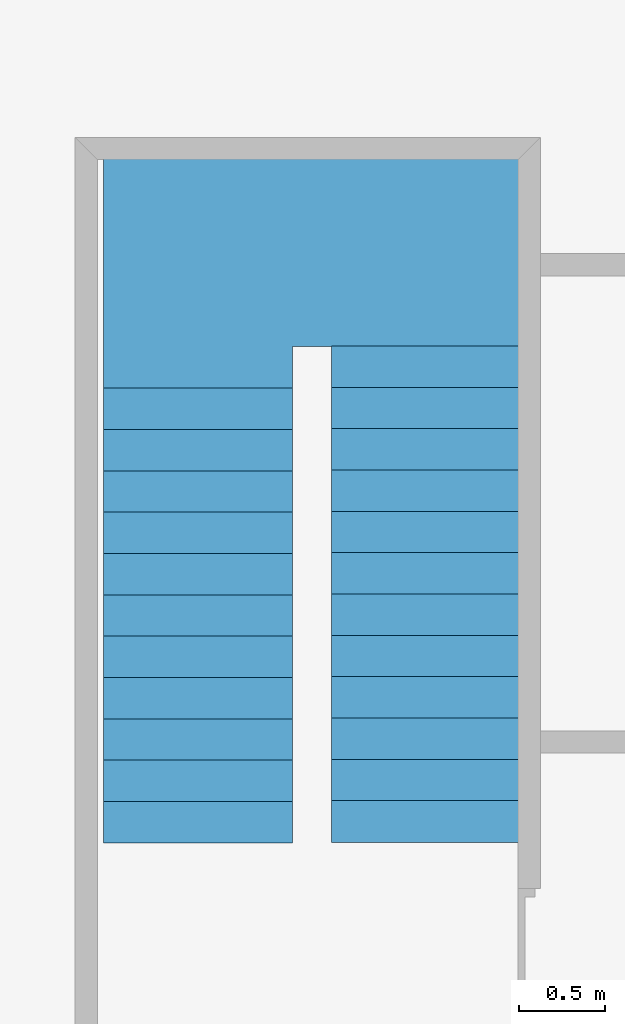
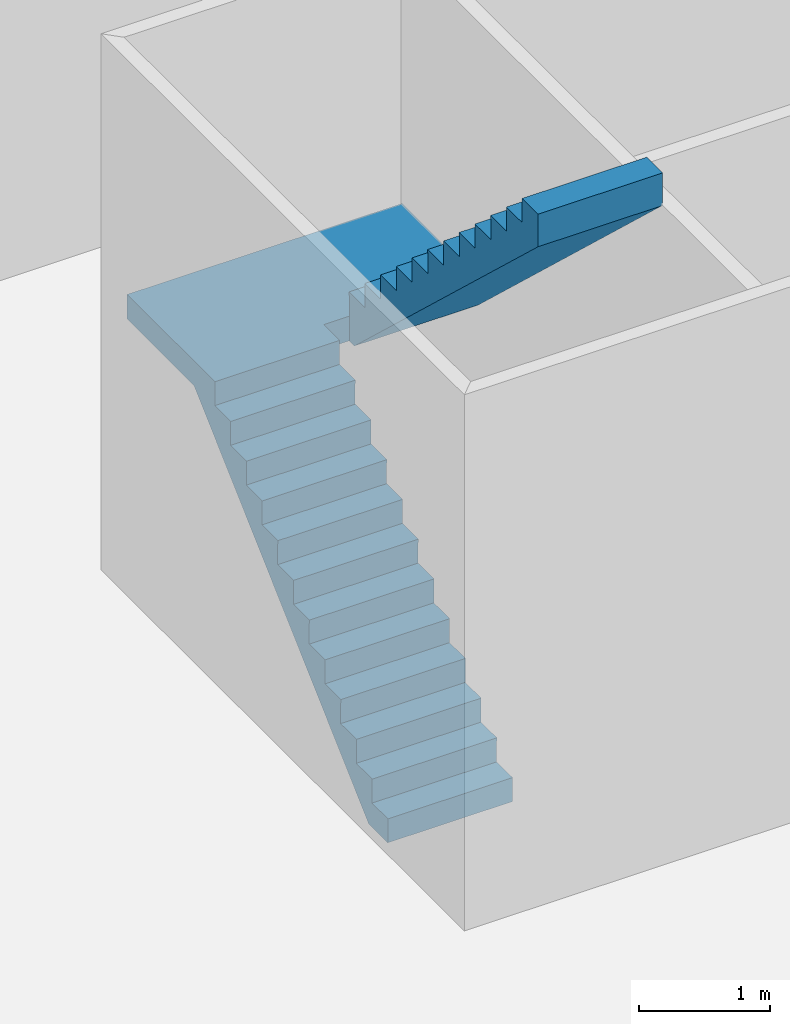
# One storey, part 37 of 40: 1 stair.
"""IFC2X3 building model written with IfcOpenShell, lengths in metres."""

from ifc_helpers import new_model, entity, si_unit, converted_unit, money_unit, direction, frame, origin_with_axes, place, context, subcontext, project, spatial, faceted_brep, material, element, save


model = new_model("IFC2X3")

# Units and contexts
model_context = context("Model", 3, precision=1e-05, world=origin_with_axes(), true_north=direction((0.0, 1.0)))
body_context = subcontext(model_context, "Body", "Model", "MODEL_VIEW")
ifc_project = project(units=[si_unit("LENGTHUNIT", "METRE"), si_unit("AREAUNIT", "SQUARE_METRE"), si_unit("VOLUMEUNIT", "CUBIC_METRE"), converted_unit("PLANEANGLEUNIT", "DEGREE", entity("IfcPlaneAngleMeasure", 0.0174532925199), si_unit("PLANEANGLEUNIT", "RADIAN"), dimensions=[0, 0, 0, 0, 0, 0, 0]), si_unit("SOLIDANGLEUNIT", "STERADIAN"), money_unit("EUR"), converted_unit("TIMEUNIT", "Year", entity("IfcTimeMeasure", 31556926.0), si_unit("TIMEUNIT", "SECOND"), dimensions=[0, 0, 0, 0, 0, 0, 0]), si_unit("MASSUNIT", "GRAM"), si_unit("THERMODYNAMICTEMPERATUREUNIT", "DEGREE_CELSIUS"), si_unit("LUMINOUSINTENSITYUNIT", "LUMEN")], contexts=[model_context])

# Site, building, storey
site_placement = place(None, origin_with_axes())
site = spatial("IfcSite", under=ifc_project, at=site_placement, Name="Undefined", CompositionType="ELEMENT")
building_placement = place(site_placement, origin_with_axes())
building = spatial("IfcBuilding", under=site, at=building_placement, Name="Undefined", CompositionType="ELEMENT")
storey_placement = place(building_placement, origin_with_axes())
storey = spatial("IfcBuildingStorey", under=building, at=storey_placement, Name="Rez de chauss\x8ee", CompositionType="ELEMENT", Elevation=0.0)

# Stair
ifc_material = material(Name="Concrete Block")
stair_placement = place(storey_placement, frame((47.25, 10.6413765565, 0.0), z_axis=(0.0, 0.0, 1.0), x_axis=(0.0, -1.0, 0.0)))
element("IfcStair", 1, at=stair_placement, inside=storey, material=ifc_material, Name="Stair_01", ObjectType="STAIR", ShapeType="NOTDEFINED", context=body_context, shape_type="Brep", body=[
    faceted_brep([(-0.292618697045, 0.0, 0.0), (-2.96264040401, 0.0, 2.47), (-2.96264040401, 1.1, 2.47), (-0.292618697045, 1.1, 0.0), (-0.02, 0.0, 0.0), (-0.02, 0.0, 0.195), (-0.260301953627, 0.0, 0.195), (-0.260301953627, 0.0, 0.42), (-0.500603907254, 0.0, 0.42), (-0.500603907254, 0.0, 0.645), (-0.740905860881, 0.0, 0.645), (-0.740905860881, 0.0, 0.87), (-0.981207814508, 0.0, 0.87), (-0.981207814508, 0.0, 1.095), (-1.22150976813, 0.0, 1.095), (-1.22150976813, 0.0, 1.32), (-1.46181172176, 0.0, 1.32), (-1.46181172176, 0.0, 1.545), (-1.70211367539, 0.0, 1.545), (-1.70211367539, 0.0, 1.77), (-1.94241562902, 0.0, 1.77), (-1.94241562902, 0.0, 1.995), (-2.18271758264, 0.0, 1.995), (-2.18271758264, 0.0, 2.22), (-2.42301953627, 0.0, 2.22), (-2.42301953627, 0.0, 2.445), (-2.6633214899, 0.0, 2.445), (-2.6633214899, 0.0, 2.67), (-2.90362344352, 0.0, 2.67), (-3.98362344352, 0.0, 2.67), (-3.98362344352, 0.0, 2.47), (-3.98362344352, 1.1, 2.47), (-3.98362344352, 1.1, 2.67), (-2.90362344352, 1.1, 2.67), (-2.6633214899, 1.1, 2.67), (-2.6633214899, 1.1, 2.445), (-2.42301953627, 1.1, 2.445), (-2.42301953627, 1.1, 2.22), (-2.18271758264, 1.1, 2.22), (-2.18271758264, 1.1, 1.995), (-1.94241562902, 1.1, 1.995), (-1.94241562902, 1.1, 1.77), (-1.70211367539, 1.1, 1.77), (-1.70211367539, 1.1, 1.545), (-1.46181172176, 1.1, 1.545), (-1.46181172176, 1.1, 1.32), (-1.22150976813, 1.1, 1.32), (-1.22150976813, 1.1, 1.095), (-0.981207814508, 1.1, 1.095), (-0.981207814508, 1.1, 0.87), (-0.740905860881, 1.1, 0.87), (-0.740905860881, 1.1, 0.645), (-0.500603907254, 1.1, 0.645), (-0.500603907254, 1.1, 0.42), (-0.260301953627, 1.1, 0.42), (-0.260301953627, 1.1, 0.195), (-0.02, 1.1, 0.195), (-0.02, 1.1, 0.0)], [[[0, 1, 2, 3]], [[0, 4, 5, 6, 7, 8, 9, 10, 11, 12, 13, 14, 15, 16, 17, 18, 19, 20, 21, 22, 23, 24, 25, 26, 27, 28, 29, 30, 1]], [[1, 30, 31, 2]], [[3, 2, 31, 32, 33, 34, 35, 36, 37, 38, 39, 40, 41, 42, 43, 44, 45, 46, 47, 48, 49, 50, 51, 52, 53, 54, 55, 56, 57]], [[4, 0, 3, 57]], [[5, 4, 57, 56]], [[6, 5, 56, 55]], [[7, 6, 55, 54]], [[8, 7, 54, 53]], [[9, 8, 53, 52]], [[10, 9, 52, 51]], [[11, 10, 51, 50]], [[12, 11, 50, 49]], [[13, 12, 49, 48]], [[14, 13, 48, 47]], [[15, 14, 47, 46]], [[16, 15, 46, 45]], [[17, 16, 45, 44]], [[18, 17, 44, 43]], [[19, 18, 43, 42]], [[20, 19, 42, 41]], [[21, 20, 41, 40]], [[22, 21, 40, 39]], [[23, 22, 39, 38]], [[24, 23, 38, 37]], [[25, 24, 37, 36]], [[26, 25, 36, 35]], [[27, 26, 35, 34]], [[28, 27, 34, 33]], [[29, 28, 33, 32]], [[30, 29, 32, 31]]]),
    faceted_brep([(-2.88362344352, 1.1, 2.67), (-2.88362344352, 1.1, 2.47), (-2.88362344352, 1.325, 2.47), (-2.88362344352, 1.325, 2.67), (-3.98362344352, 1.1, 2.67), (-3.98362344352, 1.1, 2.47), (-2.96264040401, 1.1, 2.47), (-2.96264040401, 1.325, 2.47), (-3.98362344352, 1.325, 2.47), (-3.98362344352, 1.325, 2.67)], [[[0, 1, 2, 3]], [[0, 4, 5, 6, 1]], [[1, 6, 7, 2]], [[3, 2, 7, 8, 9]], [[4, 0, 3, 9]], [[5, 4, 9, 8]], [[6, 5, 8, 7]]]),
    faceted_brep([(-2.88362344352, 1.325, 2.67), (-2.88362344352, 1.325, 2.47), (-2.88362344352, 2.425, 2.47), (-2.88362344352, 2.425, 2.67), (-3.98362344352, 1.325, 2.67), (-3.98362344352, 1.325, 2.47), (-3.98362344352, 2.425, 2.47), (-3.98362344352, 2.425, 2.67)], [[[0, 1, 2, 3]], [[0, 4, 5, 1]], [[1, 5, 6, 2]], [[3, 2, 6, 7]], [[4, 0, 3, 7]], [[5, 4, 7, 6]]]),
    faceted_brep([(-2.88362344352, 1.325, 2.47), (-2.88362344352, 2.425, 2.47), (-2.80460648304, 2.425, 2.47), (-2.80460648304, 1.325, 2.47), (-2.88362344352, 1.325, 2.67), (-2.88362344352, 2.425, 2.67), (-2.86362344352, 2.425, 2.67), (-2.86362344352, 2.425, 2.895), (-2.6233214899, 2.425, 2.895), (-2.6233214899, 2.425, 3.12), (-2.38301953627, 2.425, 3.12), (-2.38301953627, 2.425, 3.345), (-2.14271758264, 2.425, 3.345), (-2.14271758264, 2.425, 3.57), (-1.90241562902, 2.425, 3.57), (-1.90241562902, 2.425, 3.795), (-1.66211367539, 2.425, 3.795), (-1.66211367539, 2.425, 4.02), (-1.42181172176, 2.425, 4.02), (-1.42181172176, 2.425, 4.245), (-1.18150976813, 2.425, 4.245), (-1.18150976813, 2.425, 4.47), (-0.941207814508, 2.425, 4.47), (-0.941207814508, 2.425, 4.695), (-0.700905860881, 2.425, 4.695), (-0.700905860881, 2.425, 4.92), (-0.460603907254, 2.425, 4.92), (-0.460603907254, 2.425, 5.145), (-0.220301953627, 2.425, 5.145), (-0.220301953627, 2.425, 5.37), (0.0, 2.425, 5.37), (0.0, 2.425, 5.09601468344), (0.0, 1.325, 5.09601468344), (0.0, 1.325, 5.37), (-0.220301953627, 1.325, 5.37), (-0.220301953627, 1.325, 5.145), (-0.460603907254, 1.325, 5.145), (-0.460603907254, 1.325, 4.92), (-0.700905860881, 1.325, 4.92), (-0.700905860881, 1.325, 4.695), (-0.941207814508, 1.325, 4.695), (-0.941207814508, 1.325, 4.47), (-1.18150976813, 1.325, 4.47), (-1.18150976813, 1.325, 4.245), (-1.42181172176, 1.325, 4.245), (-1.42181172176, 1.325, 4.02), (-1.66211367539, 1.325, 4.02), (-1.66211367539, 1.325, 3.795), (-1.90241562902, 1.325, 3.795), (-1.90241562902, 1.325, 3.57), (-2.14271758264, 1.325, 3.57), (-2.14271758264, 1.325, 3.345), (-2.38301953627, 1.325, 3.345), (-2.38301953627, 1.325, 3.12), (-2.6233214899, 1.325, 3.12), (-2.6233214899, 1.325, 2.895), (-2.86362344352, 1.325, 2.895), (-2.86362344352, 1.325, 2.67)], [[[0, 1, 2, 3]], [[4, 5, 1, 0]], [[1, 5, 6, 7, 8, 9, 10, 11, 12, 13, 14, 15, 16, 17, 18, 19, 20, 21, 22, 23, 24, 25, 26, 27, 28, 29, 30, 31, 2]], [[3, 2, 31, 32]], [[0, 3, 32, 33, 34, 35, 36, 37, 38, 39, 40, 41, 42, 43, 44, 45, 46, 47, 48, 49, 50, 51, 52, 53, 54, 55, 56, 57, 4]], [[57, 6, 5, 4]], [[56, 7, 6, 57]], [[55, 8, 7, 56]], [[54, 9, 8, 55]], [[53, 10, 9, 54]], [[52, 11, 10, 53]], [[51, 12, 11, 52]], [[50, 13, 12, 51]], [[49, 14, 13, 50]], [[48, 15, 14, 49]], [[47, 16, 15, 48]], [[46, 17, 16, 47]], [[45, 18, 17, 46]], [[44, 19, 18, 45]], [[43, 20, 19, 44]], [[42, 21, 20, 43]], [[41, 22, 21, 42]], [[40, 23, 22, 41]], [[39, 24, 23, 40]], [[38, 25, 24, 39]], [[37, 26, 25, 38]], [[36, 27, 26, 37]], [[35, 28, 27, 36]], [[34, 29, 28, 35]], [[33, 30, 29, 34]], [[32, 31, 30, 33]]]),
    faceted_brep([(0.0, 0.0, 0.0), (-0.02, 0.0, 0.0), (-0.02, 1.1, 0.0), (0.0, 1.1, 0.0), (0.0, 0.0, 0.195), (-0.02, 0.0, 0.195), (-0.02, 1.1, 0.195), (0.0, 1.1, 0.195)], [[[0, 1, 2, 3]], [[0, 4, 5, 1]], [[1, 5, 6, 2]], [[3, 2, 6, 7]], [[4, 0, 3, 7]], [[5, 4, 7, 6]]]),
    faceted_brep([(-0.240301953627, 0.0, 0.225), (-0.260301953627, 0.0, 0.225), (-0.260301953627, 1.1, 0.225), (-0.240301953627, 1.1, 0.225), (-0.240301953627, 0.0, 0.42), (-0.260301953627, 0.0, 0.42), (-0.260301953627, 1.1, 0.42), (-0.240301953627, 1.1, 0.42)], [[[0, 1, 2, 3]], [[0, 4, 5, 1]], [[1, 5, 6, 2]], [[3, 2, 6, 7]], [[4, 0, 3, 7]], [[5, 4, 7, 6]]]),
    faceted_brep([(-0.480603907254, 0.0, 0.45), (-0.500603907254, 0.0, 0.45), (-0.500603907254, 1.1, 0.45), (-0.480603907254, 1.1, 0.45), (-0.480603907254, 0.0, 0.645), (-0.500603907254, 0.0, 0.645), (-0.500603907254, 1.1, 0.645), (-0.480603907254, 1.1, 0.645)], [[[0, 1, 2, 3]], [[0, 4, 5, 1]], [[1, 5, 6, 2]], [[3, 2, 6, 7]], [[4, 0, 3, 7]], [[5, 4, 7, 6]]]),
    faceted_brep([(-0.720905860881, 0.0, 0.675), (-0.740905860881, 0.0, 0.675), (-0.740905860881, 1.1, 0.675), (-0.720905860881, 1.1, 0.675), (-0.720905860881, 0.0, 0.87), (-0.740905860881, 0.0, 0.87), (-0.740905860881, 1.1, 0.87), (-0.720905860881, 1.1, 0.87)], [[[0, 1, 2, 3]], [[0, 4, 5, 1]], [[1, 5, 6, 2]], [[3, 2, 6, 7]], [[4, 0, 3, 7]], [[5, 4, 7, 6]]]),
    faceted_brep([(-0.961207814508, 0.0, 0.9), (-0.981207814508, 0.0, 0.9), (-0.981207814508, 1.1, 0.9), (-0.961207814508, 1.1, 0.9), (-0.961207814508, 0.0, 1.095), (-0.981207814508, 0.0, 1.095), (-0.981207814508, 1.1, 1.095), (-0.961207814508, 1.1, 1.095)], [[[0, 1, 2, 3]], [[0, 4, 5, 1]], [[1, 5, 6, 2]], [[3, 2, 6, 7]], [[4, 0, 3, 7]], [[5, 4, 7, 6]]]),
    faceted_brep([(-1.20150976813, 0.0, 1.125), (-1.22150976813, 0.0, 1.125), (-1.22150976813, 1.1, 1.125), (-1.20150976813, 1.1, 1.125), (-1.20150976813, 0.0, 1.32), (-1.22150976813, 0.0, 1.32), (-1.22150976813, 1.1, 1.32), (-1.20150976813, 1.1, 1.32)], [[[0, 1, 2, 3]], [[0, 4, 5, 1]], [[1, 5, 6, 2]], [[3, 2, 6, 7]], [[4, 0, 3, 7]], [[5, 4, 7, 6]]]),
    faceted_brep([(-1.44181172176, 0.0, 1.35), (-1.46181172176, 0.0, 1.35), (-1.46181172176, 1.1, 1.35), (-1.44181172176, 1.1, 1.35), (-1.44181172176, 0.0, 1.545), (-1.46181172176, 0.0, 1.545), (-1.46181172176, 1.1, 1.545), (-1.44181172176, 1.1, 1.545)], [[[0, 1, 2, 3]], [[0, 4, 5, 1]], [[1, 5, 6, 2]], [[3, 2, 6, 7]], [[4, 0, 3, 7]], [[5, 4, 7, 6]]]),
    faceted_brep([(-1.68211367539, 0.0, 1.575), (-1.70211367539, 0.0, 1.575), (-1.70211367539, 1.1, 1.575), (-1.68211367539, 1.1, 1.575), (-1.68211367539, 0.0, 1.77), (-1.70211367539, 0.0, 1.77), (-1.70211367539, 1.1, 1.77), (-1.68211367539, 1.1, 1.77)], [[[0, 1, 2, 3]], [[0, 4, 5, 1]], [[1, 5, 6, 2]], [[3, 2, 6, 7]], [[4, 0, 3, 7]], [[5, 4, 7, 6]]]),
    faceted_brep([(-1.92241562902, 0.0, 1.8), (-1.94241562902, 0.0, 1.8), (-1.94241562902, 1.1, 1.8), (-1.92241562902, 1.1, 1.8), (-1.92241562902, 0.0, 1.995), (-1.94241562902, 0.0, 1.995), (-1.94241562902, 1.1, 1.995), (-1.92241562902, 1.1, 1.995)], [[[0, 1, 2, 3]], [[0, 4, 5, 1]], [[1, 5, 6, 2]], [[3, 2, 6, 7]], [[4, 0, 3, 7]], [[5, 4, 7, 6]]]),
    faceted_brep([(-2.16271758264, 0.0, 2.025), (-2.18271758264, 0.0, 2.025), (-2.18271758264, 1.1, 2.025), (-2.16271758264, 1.1, 2.025), (-2.16271758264, 0.0, 2.22), (-2.18271758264, 0.0, 2.22), (-2.18271758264, 1.1, 2.22), (-2.16271758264, 1.1, 2.22)], [[[0, 1, 2, 3]], [[0, 4, 5, 1]], [[1, 5, 6, 2]], [[3, 2, 6, 7]], [[4, 0, 3, 7]], [[5, 4, 7, 6]]]),
    faceted_brep([(-2.40301953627, 0.0, 2.25), (-2.42301953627, 0.0, 2.25), (-2.42301953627, 1.1, 2.25), (-2.40301953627, 1.1, 2.25), (-2.40301953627, 0.0, 2.445), (-2.42301953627, 0.0, 2.445), (-2.42301953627, 1.1, 2.445), (-2.40301953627, 1.1, 2.445)], [[[0, 1, 2, 3]], [[0, 4, 5, 1]], [[1, 5, 6, 2]], [[3, 2, 6, 7]], [[4, 0, 3, 7]], [[5, 4, 7, 6]]]),
    faceted_brep([(-2.6433214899, 0.0, 2.475), (-2.6633214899, 0.0, 2.475), (-2.6633214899, 1.1, 2.475), (-2.6433214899, 1.1, 2.475), (-2.6433214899, 0.0, 2.67), (-2.6633214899, 0.0, 2.67), (-2.6633214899, 1.1, 2.67), (-2.6433214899, 1.1, 2.67)], [[[0, 1, 2, 3]], [[0, 4, 5, 1]], [[1, 5, 6, 2]], [[3, 2, 6, 7]], [[4, 0, 3, 7]], [[5, 4, 7, 6]]]),
    faceted_brep([(-2.88362344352, 1.325, 2.7), (-2.88362344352, 2.425, 2.7), (-2.86362344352, 2.425, 2.7), (-2.86362344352, 1.325, 2.7), (-2.88362344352, 1.325, 2.895), (-2.88362344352, 2.425, 2.895), (-2.86362344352, 2.425, 2.895), (-2.86362344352, 1.325, 2.895)], [[[0, 1, 2, 3]], [[4, 5, 1, 0]], [[1, 5, 6, 2]], [[3, 2, 6, 7]], [[0, 3, 7, 4]], [[7, 6, 5, 4]]]),
    faceted_brep([(-2.6433214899, 1.325, 2.925), (-2.6433214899, 2.425, 2.925), (-2.6233214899, 2.425, 2.925), (-2.6233214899, 1.325, 2.925), (-2.6433214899, 1.325, 3.12), (-2.6433214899, 2.425, 3.12), (-2.6233214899, 2.425, 3.12), (-2.6233214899, 1.325, 3.12)], [[[0, 1, 2, 3]], [[4, 5, 1, 0]], [[1, 5, 6, 2]], [[3, 2, 6, 7]], [[0, 3, 7, 4]], [[7, 6, 5, 4]]]),
    faceted_brep([(-2.40301953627, 1.325, 3.15), (-2.40301953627, 2.425, 3.15), (-2.38301953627, 2.425, 3.15), (-2.38301953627, 1.325, 3.15), (-2.40301953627, 1.325, 3.345), (-2.40301953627, 2.425, 3.345), (-2.38301953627, 2.425, 3.345), (-2.38301953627, 1.325, 3.345)], [[[0, 1, 2, 3]], [[4, 5, 1, 0]], [[1, 5, 6, 2]], [[3, 2, 6, 7]], [[0, 3, 7, 4]], [[7, 6, 5, 4]]]),
    faceted_brep([(-2.16271758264, 1.325, 3.375), (-2.16271758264, 2.425, 3.375), (-2.14271758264, 2.425, 3.375), (-2.14271758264, 1.325, 3.375), (-2.16271758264, 1.325, 3.57), (-2.16271758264, 2.425, 3.57), (-2.14271758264, 2.425, 3.57), (-2.14271758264, 1.325, 3.57)], [[[0, 1, 2, 3]], [[4, 5, 1, 0]], [[1, 5, 6, 2]], [[3, 2, 6, 7]], [[0, 3, 7, 4]], [[7, 6, 5, 4]]]),
    faceted_brep([(-1.92241562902, 1.325, 3.6), (-1.92241562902, 2.425, 3.6), (-1.90241562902, 2.425, 3.6), (-1.90241562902, 1.325, 3.6), (-1.92241562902, 1.325, 3.795), (-1.92241562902, 2.425, 3.795), (-1.90241562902, 2.425, 3.795), (-1.90241562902, 1.325, 3.795)], [[[0, 1, 2, 3]], [[4, 5, 1, 0]], [[1, 5, 6, 2]], [[3, 2, 6, 7]], [[0, 3, 7, 4]], [[7, 6, 5, 4]]]),
    faceted_brep([(-1.68211367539, 1.325, 3.825), (-1.68211367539, 2.425, 3.825), (-1.66211367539, 2.425, 3.825), (-1.66211367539, 1.325, 3.825), (-1.68211367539, 1.325, 4.02), (-1.68211367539, 2.425, 4.02), (-1.66211367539, 2.425, 4.02), (-1.66211367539, 1.325, 4.02)], [[[0, 1, 2, 3]], [[4, 5, 1, 0]], [[1, 5, 6, 2]], [[3, 2, 6, 7]], [[0, 3, 7, 4]], [[7, 6, 5, 4]]]),
    faceted_brep([(-1.44181172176, 1.325, 4.05), (-1.44181172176, 2.425, 4.05), (-1.42181172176, 2.425, 4.05), (-1.42181172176, 1.325, 4.05), (-1.44181172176, 1.325, 4.245), (-1.44181172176, 2.425, 4.245), (-1.42181172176, 2.425, 4.245), (-1.42181172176, 1.325, 4.245)], [[[0, 1, 2, 3]], [[4, 5, 1, 0]], [[1, 5, 6, 2]], [[3, 2, 6, 7]], [[0, 3, 7, 4]], [[7, 6, 5, 4]]]),
    faceted_brep([(-1.20150976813, 1.325, 4.275), (-1.20150976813, 2.425, 4.275), (-1.18150976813, 2.425, 4.275), (-1.18150976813, 1.325, 4.275), (-1.20150976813, 1.325, 4.47), (-1.20150976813, 2.425, 4.47), (-1.18150976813, 2.425, 4.47), (-1.18150976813, 1.325, 4.47)], [[[0, 1, 2, 3]], [[4, 5, 1, 0]], [[1, 5, 6, 2]], [[3, 2, 6, 7]], [[0, 3, 7, 4]], [[7, 6, 5, 4]]]),
    faceted_brep([(-0.961207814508, 1.325, 4.5), (-0.961207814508, 2.425, 4.5), (-0.941207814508, 2.425, 4.5), (-0.941207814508, 1.325, 4.5), (-0.961207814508, 1.325, 4.695), (-0.961207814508, 2.425, 4.695), (-0.941207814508, 2.425, 4.695), (-0.941207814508, 1.325, 4.695)], [[[0, 1, 2, 3]], [[4, 5, 1, 0]], [[1, 5, 6, 2]], [[3, 2, 6, 7]], [[0, 3, 7, 4]], [[7, 6, 5, 4]]]),
    faceted_brep([(-0.720905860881, 1.325, 4.725), (-0.720905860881, 2.425, 4.725), (-0.700905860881, 2.425, 4.725), (-0.700905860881, 1.325, 4.725), (-0.720905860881, 1.325, 4.92), (-0.720905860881, 2.425, 4.92), (-0.700905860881, 2.425, 4.92), (-0.700905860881, 1.325, 4.92)], [[[0, 1, 2, 3]], [[4, 5, 1, 0]], [[1, 5, 6, 2]], [[3, 2, 6, 7]], [[0, 3, 7, 4]], [[7, 6, 5, 4]]]),
    faceted_brep([(-0.480603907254, 1.325, 4.95), (-0.480603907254, 2.425, 4.95), (-0.460603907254, 2.425, 4.95), (-0.460603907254, 1.325, 4.95), (-0.480603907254, 1.325, 5.145), (-0.480603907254, 2.425, 5.145), (-0.460603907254, 2.425, 5.145), (-0.460603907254, 1.325, 5.145)], [[[0, 1, 2, 3]], [[4, 5, 1, 0]], [[1, 5, 6, 2]], [[3, 2, 6, 7]], [[0, 3, 7, 4]], [[7, 6, 5, 4]]]),
    faceted_brep([(-0.240301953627, 1.325, 5.175), (-0.240301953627, 2.425, 5.175), (-0.220301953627, 2.425, 5.175), (-0.220301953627, 1.325, 5.175), (-0.240301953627, 1.325, 5.37), (-0.240301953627, 2.425, 5.37), (-0.220301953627, 2.425, 5.37), (-0.220301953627, 1.325, 5.37)], [[[0, 1, 2, 3]], [[4, 5, 1, 0]], [[1, 5, 6, 2]], [[3, 2, 6, 7]], [[0, 3, 7, 4]], [[7, 6, 5, 4]]]),
    faceted_brep([(0.0025, 0.0, 0.195), (-0.260301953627, 0.0, 0.195), (-0.260301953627, 1.1, 0.195), (0.0025, 1.1, 0.195), (0.0025, 0.0, 0.225), (-0.260301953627, 0.0, 0.225), (-0.260301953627, 1.1, 0.225), (0.0025, 1.1, 0.225)], [[[0, 1, 2, 3]], [[0, 4, 5, 1]], [[1, 5, 6, 2]], [[3, 2, 6, 7]], [[4, 0, 3, 7]], [[5, 4, 7, 6]]]),
    faceted_brep([(-0.237801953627, 0.0, 0.42), (-0.500603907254, 0.0, 0.42), (-0.500603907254, 1.1, 0.42), (-0.237801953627, 1.1, 0.42), (-0.237801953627, 0.0, 0.45), (-0.500603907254, 0.0, 0.45), (-0.500603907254, 1.1, 0.45), (-0.237801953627, 1.1, 0.45)], [[[0, 1, 2, 3]], [[0, 4, 5, 1]], [[1, 5, 6, 2]], [[3, 2, 6, 7]], [[4, 0, 3, 7]], [[5, 4, 7, 6]]]),
    faceted_brep([(-0.478103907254, 0.0, 0.645), (-0.740905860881, 0.0, 0.645), (-0.740905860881, 1.1, 0.645), (-0.478103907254, 1.1, 0.645), (-0.478103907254, 0.0, 0.675), (-0.740905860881, 0.0, 0.675), (-0.740905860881, 1.1, 0.675), (-0.478103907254, 1.1, 0.675)], [[[0, 1, 2, 3]], [[0, 4, 5, 1]], [[1, 5, 6, 2]], [[3, 2, 6, 7]], [[4, 0, 3, 7]], [[5, 4, 7, 6]]]),
    faceted_brep([(-0.718405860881, 0.0, 0.87), (-0.981207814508, 0.0, 0.87), (-0.981207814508, 1.1, 0.87), (-0.718405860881, 1.1, 0.87), (-0.718405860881, 0.0, 0.9), (-0.981207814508, 0.0, 0.9), (-0.981207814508, 1.1, 0.9), (-0.718405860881, 1.1, 0.9)], [[[0, 1, 2, 3]], [[0, 4, 5, 1]], [[1, 5, 6, 2]], [[3, 2, 6, 7]], [[4, 0, 3, 7]], [[5, 4, 7, 6]]]),
    faceted_brep([(-0.958707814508, 0.0, 1.095), (-1.22150976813, 0.0, 1.095), (-1.22150976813, 1.1, 1.095), (-0.958707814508, 1.1, 1.095), (-0.958707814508, 0.0, 1.125), (-1.22150976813, 0.0, 1.125), (-1.22150976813, 1.1, 1.125), (-0.958707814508, 1.1, 1.125)], [[[0, 1, 2, 3]], [[0, 4, 5, 1]], [[1, 5, 6, 2]], [[3, 2, 6, 7]], [[4, 0, 3, 7]], [[5, 4, 7, 6]]]),
    faceted_brep([(-1.19900976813, 0.0, 1.32), (-1.46181172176, 0.0, 1.32), (-1.46181172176, 1.1, 1.32), (-1.19900976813, 1.1, 1.32), (-1.19900976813, 0.0, 1.35), (-1.46181172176, 0.0, 1.35), (-1.46181172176, 1.1, 1.35), (-1.19900976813, 1.1, 1.35)], [[[0, 1, 2, 3]], [[0, 4, 5, 1]], [[1, 5, 6, 2]], [[3, 2, 6, 7]], [[4, 0, 3, 7]], [[5, 4, 7, 6]]]),
    faceted_brep([(-1.43931172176, 0.0, 1.545), (-1.70211367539, 0.0, 1.545), (-1.70211367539, 1.1, 1.545), (-1.43931172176, 1.1, 1.545), (-1.43931172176, 0.0, 1.575), (-1.70211367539, 0.0, 1.575), (-1.70211367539, 1.1, 1.575), (-1.43931172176, 1.1, 1.575)], [[[0, 1, 2, 3]], [[0, 4, 5, 1]], [[1, 5, 6, 2]], [[3, 2, 6, 7]], [[4, 0, 3, 7]], [[5, 4, 7, 6]]]),
    faceted_brep([(-1.67961367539, 0.0, 1.77), (-1.94241562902, 0.0, 1.77), (-1.94241562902, 1.1, 1.77), (-1.67961367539, 1.1, 1.77), (-1.67961367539, 0.0, 1.8), (-1.94241562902, 0.0, 1.8), (-1.94241562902, 1.1, 1.8), (-1.67961367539, 1.1, 1.8)], [[[0, 1, 2, 3]], [[0, 4, 5, 1]], [[1, 5, 6, 2]], [[3, 2, 6, 7]], [[4, 0, 3, 7]], [[5, 4, 7, 6]]]),
    faceted_brep([(-1.91991562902, 0.0, 1.995), (-2.18271758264, 0.0, 1.995), (-2.18271758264, 1.1, 1.995), (-1.91991562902, 1.1, 1.995), (-1.91991562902, 0.0, 2.025), (-2.18271758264, 0.0, 2.025), (-2.18271758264, 1.1, 2.025), (-1.91991562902, 1.1, 2.025)], [[[0, 1, 2, 3]], [[0, 4, 5, 1]], [[1, 5, 6, 2]], [[3, 2, 6, 7]], [[4, 0, 3, 7]], [[5, 4, 7, 6]]]),
    faceted_brep([(-2.16021758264, 0.0, 2.22), (-2.42301953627, 0.0, 2.22), (-2.42301953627, 1.1, 2.22), (-2.16021758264, 1.1, 2.22), (-2.16021758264, 0.0, 2.25), (-2.42301953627, 0.0, 2.25), (-2.42301953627, 1.1, 2.25), (-2.16021758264, 1.1, 2.25)], [[[0, 1, 2, 3]], [[0, 4, 5, 1]], [[1, 5, 6, 2]], [[3, 2, 6, 7]], [[4, 0, 3, 7]], [[5, 4, 7, 6]]]),
    faceted_brep([(-2.40051953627, 0.0, 2.445), (-2.6633214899, 0.0, 2.445), (-2.6633214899, 1.1, 2.445), (-2.40051953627, 1.1, 2.445), (-2.40051953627, 0.0, 2.475), (-2.6633214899, 0.0, 2.475), (-2.6633214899, 1.1, 2.475), (-2.40051953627, 1.1, 2.475)], [[[0, 1, 2, 3]], [[0, 4, 5, 1]], [[1, 5, 6, 2]], [[3, 2, 6, 7]], [[4, 0, 3, 7]], [[5, 4, 7, 6]]]),
    faceted_brep([(-2.6408214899, 0.0, 2.67), (-2.88362344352, 0.0, 2.67), (-2.88362344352, 1.1, 2.67), (-2.6408214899, 1.1, 2.67), (-2.6408214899, 0.0, 2.7), (-2.88362344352, 0.0, 2.7), (-2.88362344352, 1.1, 2.7), (-2.6408214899, 1.1, 2.7)], [[[0, 1, 2, 3]], [[0, 4, 5, 1]], [[1, 5, 6, 2]], [[3, 2, 6, 7]], [[4, 0, 3, 7]], [[5, 4, 7, 6]]]),
    faceted_brep([(-3.98362344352, 0.0, 2.67), (-3.98362344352, 0.0, 2.7), (-3.98362344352, 1.325, 2.7), (-3.98362344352, 1.325, 2.67), (-2.88362344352, 0.0, 2.67), (-2.88362344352, 0.0, 2.7), (-2.88362344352, 1.325, 2.7), (-2.88362344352, 1.325, 2.67)], [[[0, 1, 2, 3]], [[0, 4, 5, 1]], [[1, 5, 6, 2]], [[3, 2, 6, 7]], [[4, 0, 3, 7]], [[5, 4, 7, 6]]]),
    faceted_brep([(-3.98362344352, 1.325, 2.67), (-3.98362344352, 1.325, 2.7), (-3.98362344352, 2.425, 2.7), (-3.98362344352, 2.425, 2.67), (-2.86362344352, 1.325, 2.67), (-2.86362344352, 1.325, 2.7), (-2.86362344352, 2.425, 2.7), (-2.86362344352, 2.425, 2.67)], [[[0, 1, 2, 3]], [[0, 4, 5, 1]], [[1, 5, 6, 2]], [[3, 2, 6, 7]], [[4, 0, 3, 7]], [[5, 4, 7, 6]]]),
    faceted_brep([(-2.88612344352, 1.325, 2.895), (-2.88612344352, 2.425, 2.895), (-2.6233214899, 2.425, 2.895), (-2.6233214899, 1.325, 2.895), (-2.88612344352, 1.325, 2.925), (-2.88612344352, 2.425, 2.925), (-2.6233214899, 2.425, 2.925), (-2.6233214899, 1.325, 2.925)], [[[0, 1, 2, 3]], [[4, 5, 1, 0]], [[1, 5, 6, 2]], [[3, 2, 6, 7]], [[0, 3, 7, 4]], [[7, 6, 5, 4]]]),
    faceted_brep([(-2.6458214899, 1.325, 3.12), (-2.6458214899, 2.425, 3.12), (-2.38301953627, 2.425, 3.12), (-2.38301953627, 1.325, 3.12), (-2.6458214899, 1.325, 3.15), (-2.6458214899, 2.425, 3.15), (-2.38301953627, 2.425, 3.15), (-2.38301953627, 1.325, 3.15)], [[[0, 1, 2, 3]], [[4, 5, 1, 0]], [[1, 5, 6, 2]], [[3, 2, 6, 7]], [[0, 3, 7, 4]], [[7, 6, 5, 4]]]),
    faceted_brep([(-2.40551953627, 1.325, 3.345), (-2.40551953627, 2.425, 3.345), (-2.14271758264, 2.425, 3.345), (-2.14271758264, 1.325, 3.345), (-2.40551953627, 1.325, 3.375), (-2.40551953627, 2.425, 3.375), (-2.14271758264, 2.425, 3.375), (-2.14271758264, 1.325, 3.375)], [[[0, 1, 2, 3]], [[4, 5, 1, 0]], [[1, 5, 6, 2]], [[3, 2, 6, 7]], [[0, 3, 7, 4]], [[7, 6, 5, 4]]]),
    faceted_brep([(-2.16521758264, 1.325, 3.57), (-2.16521758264, 2.425, 3.57), (-1.90241562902, 2.425, 3.57), (-1.90241562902, 1.325, 3.57), (-2.16521758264, 1.325, 3.6), (-2.16521758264, 2.425, 3.6), (-1.90241562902, 2.425, 3.6), (-1.90241562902, 1.325, 3.6)], [[[0, 1, 2, 3]], [[4, 5, 1, 0]], [[1, 5, 6, 2]], [[3, 2, 6, 7]], [[0, 3, 7, 4]], [[7, 6, 5, 4]]]),
    faceted_brep([(-1.92491562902, 1.325, 3.795), (-1.92491562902, 2.425, 3.795), (-1.66211367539, 2.425, 3.795), (-1.66211367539, 1.325, 3.795), (-1.92491562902, 1.325, 3.825), (-1.92491562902, 2.425, 3.825), (-1.66211367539, 2.425, 3.825), (-1.66211367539, 1.325, 3.825)], [[[0, 1, 2, 3]], [[4, 5, 1, 0]], [[1, 5, 6, 2]], [[3, 2, 6, 7]], [[0, 3, 7, 4]], [[7, 6, 5, 4]]]),
    faceted_brep([(-1.68461367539, 1.325, 4.02), (-1.68461367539, 2.425, 4.02), (-1.42181172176, 2.425, 4.02), (-1.42181172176, 1.325, 4.02), (-1.68461367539, 1.325, 4.05), (-1.68461367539, 2.425, 4.05), (-1.42181172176, 2.425, 4.05), (-1.42181172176, 1.325, 4.05)], [[[0, 1, 2, 3]], [[4, 5, 1, 0]], [[1, 5, 6, 2]], [[3, 2, 6, 7]], [[0, 3, 7, 4]], [[7, 6, 5, 4]]]),
    faceted_brep([(-1.44431172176, 1.325, 4.245), (-1.44431172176, 2.425, 4.245), (-1.18150976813, 2.425, 4.245), (-1.18150976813, 1.325, 4.245), (-1.44431172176, 1.325, 4.275), (-1.44431172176, 2.425, 4.275), (-1.18150976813, 2.425, 4.275), (-1.18150976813, 1.325, 4.275)], [[[0, 1, 2, 3]], [[4, 5, 1, 0]], [[1, 5, 6, 2]], [[3, 2, 6, 7]], [[0, 3, 7, 4]], [[7, 6, 5, 4]]]),
    faceted_brep([(-1.20400976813, 1.325, 4.47), (-1.20400976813, 2.425, 4.47), (-0.941207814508, 2.425, 4.47), (-0.941207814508, 1.325, 4.47), (-1.20400976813, 1.325, 4.5), (-1.20400976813, 2.425, 4.5), (-0.941207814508, 2.425, 4.5), (-0.941207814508, 1.325, 4.5)], [[[0, 1, 2, 3]], [[4, 5, 1, 0]], [[1, 5, 6, 2]], [[3, 2, 6, 7]], [[0, 3, 7, 4]], [[7, 6, 5, 4]]]),
    faceted_brep([(-0.963707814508, 1.325, 4.695), (-0.963707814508, 2.425, 4.695), (-0.700905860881, 2.425, 4.695), (-0.700905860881, 1.325, 4.695), (-0.963707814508, 1.325, 4.725), (-0.963707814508, 2.425, 4.725), (-0.700905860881, 2.425, 4.725), (-0.700905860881, 1.325, 4.725)], [[[0, 1, 2, 3]], [[4, 5, 1, 0]], [[1, 5, 6, 2]], [[3, 2, 6, 7]], [[0, 3, 7, 4]], [[7, 6, 5, 4]]]),
    faceted_brep([(-0.723405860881, 1.325, 4.92), (-0.723405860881, 2.425, 4.92), (-0.460603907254, 2.425, 4.92), (-0.460603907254, 1.325, 4.92), (-0.723405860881, 1.325, 4.95), (-0.723405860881, 2.425, 4.95), (-0.460603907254, 2.425, 4.95), (-0.460603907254, 1.325, 4.95)], [[[0, 1, 2, 3]], [[4, 5, 1, 0]], [[1, 5, 6, 2]], [[3, 2, 6, 7]], [[0, 3, 7, 4]], [[7, 6, 5, 4]]]),
    faceted_brep([(-0.483103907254, 1.325, 5.145), (-0.483103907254, 2.425, 5.145), (-0.220301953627, 2.425, 5.145), (-0.220301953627, 1.325, 5.145), (-0.483103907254, 1.325, 5.175), (-0.483103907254, 2.425, 5.175), (-0.220301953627, 2.425, 5.175), (-0.220301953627, 1.325, 5.175)], [[[0, 1, 2, 3]], [[4, 5, 1, 0]], [[1, 5, 6, 2]], [[3, 2, 6, 7]], [[0, 3, 7, 4]], [[7, 6, 5, 4]]]),
    faceted_brep([(-0.242801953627, 1.325, 5.37), (-0.242801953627, 2.425, 5.37), (0.0, 2.425, 5.37), (0.0, 1.325, 5.37), (-0.242801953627, 1.325, 5.4), (-0.242801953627, 2.425, 5.4), (0.0, 2.425, 5.4), (0.0, 1.325, 5.4)], [[[0, 1, 2, 3]], [[4, 5, 1, 0]], [[1, 5, 6, 2]], [[3, 2, 6, 7]], [[0, 3, 7, 4]], [[7, 6, 5, 4]]]),
])

save(model, "model.ifc")
